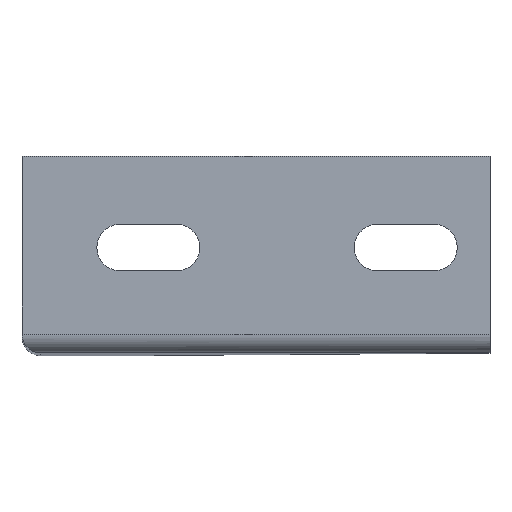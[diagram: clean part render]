
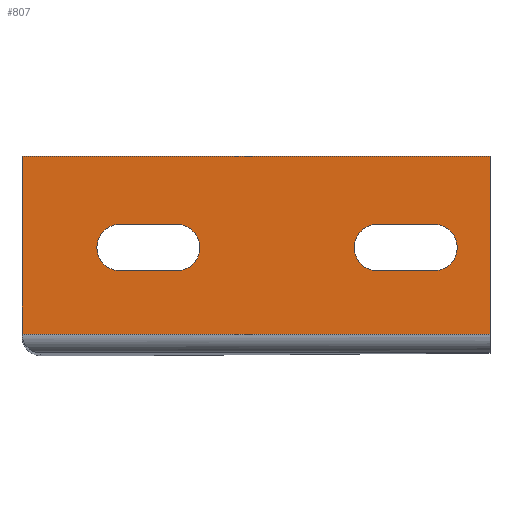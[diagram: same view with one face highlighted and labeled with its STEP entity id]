
A CAD part, top view. The second image highlights one B-rep face of the part: STEP entity #807.
In plain terms, the highlighted planar face has unit normal (0, 0, 1).
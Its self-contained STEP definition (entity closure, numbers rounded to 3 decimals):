
#17=DIRECTION('',(-1.,0.,0.));
#18=VECTOR('',#17,100.);
#19=CARTESIAN_POINT('',(100.,4.,0.));
#20=LINE('',#19,#18);
#191=DIRECTION('',(0.,1.,0.));
#192=VECTOR('',#191,38.);
#193=CARTESIAN_POINT('',(100.,4.,0.));
#194=LINE('',#193,#192);
#203=CARTESIAN_POINT('',(21.,22.5,0.));
#204=DIRECTION('',(0.,0.,-1.));
#205=DIRECTION('',(0.,-1.,0.));
#206=AXIS2_PLACEMENT_3D('',#203,#204,#205);
#208=DIRECTION('',(-1.,0.,0.));
#209=VECTOR('',#208,12.);
#210=CARTESIAN_POINT('',(33.,17.5,0.));
#211=LINE('',#210,#209);
#212=CARTESIAN_POINT('',(33.,22.5,0.));
#213=DIRECTION('',(0.,0.,-1.));
#214=DIRECTION('',(0.,1.,0.));
#215=AXIS2_PLACEMENT_3D('',#212,#213,#214);
#217=DIRECTION('',(1.,0.,0.));
#218=VECTOR('',#217,12.);
#219=CARTESIAN_POINT('',(21.,27.5,0.));
#220=LINE('',#219,#218);
#221=CARTESIAN_POINT('',(76.,22.5,0.));
#222=DIRECTION('',(0.,0.,-1.));
#223=DIRECTION('',(0.,-1.,0.));
#224=AXIS2_PLACEMENT_3D('',#221,#222,#223);
#226=DIRECTION('',(-1.,0.,0.));
#227=VECTOR('',#226,12.);
#228=CARTESIAN_POINT('',(88.,17.5,0.));
#229=LINE('',#228,#227);
#230=CARTESIAN_POINT('',(88.,22.5,0.));
#231=DIRECTION('',(0.,0.,-1.));
#232=DIRECTION('',(0.,1.,0.));
#233=AXIS2_PLACEMENT_3D('',#230,#231,#232);
#235=DIRECTION('',(1.,0.,0.));
#236=VECTOR('',#235,12.);
#237=CARTESIAN_POINT('',(76.,27.5,0.));
#238=LINE('',#237,#236);
#239=DIRECTION('',(0.,1.,0.));
#240=VECTOR('',#239,38.);
#241=CARTESIAN_POINT('',(0.,4.,0.));
#242=LINE('',#241,#240);
#350=DIRECTION('',(1.,0.,0.));
#351=VECTOR('',#350,100.);
#352=CARTESIAN_POINT('',(0.,42.,0.));
#353=LINE('',#352,#351);
#367=CARTESIAN_POINT('',(0.,42.,0.));
#369=VERTEX_POINT('',#367);
#370=CARTESIAN_POINT('',(100.,42.,0.));
#371=VERTEX_POINT('',#370);
#414=CARTESIAN_POINT('',(21.,17.5,0.));
#415=CARTESIAN_POINT('',(21.,27.5,0.));
#416=VERTEX_POINT('',#414);
#417=VERTEX_POINT('',#415);
#418=CARTESIAN_POINT('',(33.,27.5,0.));
#419=VERTEX_POINT('',#418);
#420=CARTESIAN_POINT('',(33.,17.5,0.));
#421=VERTEX_POINT('',#420);
#422=CARTESIAN_POINT('',(76.,17.5,0.));
#423=CARTESIAN_POINT('',(76.,27.5,0.));
#424=VERTEX_POINT('',#422);
#425=VERTEX_POINT('',#423);
#426=CARTESIAN_POINT('',(88.,27.5,0.));
#427=VERTEX_POINT('',#426);
#428=CARTESIAN_POINT('',(88.,17.5,0.));
#429=VERTEX_POINT('',#428);
#462=CARTESIAN_POINT('',(100.,4.,0.));
#463=CARTESIAN_POINT('',(0.,4.,0.));
#464=VERTEX_POINT('',#462);
#465=VERTEX_POINT('',#463);
#775=CARTESIAN_POINT('',(0.,0.,0.));
#776=DIRECTION('',(0.,0.,1.));
#777=DIRECTION('',(1.,0.,0.));
#778=AXIS2_PLACEMENT_3D('',#775,#776,#777);
#779=PLANE('',#778);
#780=ORIENTED_EDGE('',*,*,#496,.T.);
#781=ORIENTED_EDGE('',*,*,#527,.T.);
#783=ORIENTED_EDGE('',*,*,#782,.T.);
#784=ORIENTED_EDGE('',*,*,#761,.F.);
#785=EDGE_LOOP('',(#780,#781,#783,#784));
#786=FACE_OUTER_BOUND('',#785,.F.);
#788=ORIENTED_EDGE('',*,*,#787,.F.);
#790=ORIENTED_EDGE('',*,*,#789,.F.);
#792=ORIENTED_EDGE('',*,*,#791,.F.);
#794=ORIENTED_EDGE('',*,*,#793,.F.);
#795=EDGE_LOOP('',(#788,#790,#792,#794));
#796=FACE_BOUND('',#795,.F.);
#798=ORIENTED_EDGE('',*,*,#797,.F.);
#800=ORIENTED_EDGE('',*,*,#799,.F.);
#802=ORIENTED_EDGE('',*,*,#801,.F.);
#804=ORIENTED_EDGE('',*,*,#803,.F.);
#805=EDGE_LOOP('',(#798,#800,#802,#804));
#806=FACE_BOUND('',#805,.F.);
#807=ADVANCED_FACE('',(#786,#796,#806),#779,.T.);
#207=CIRCLE('',#206,5.);
#216=CIRCLE('',#215,5.);
#225=CIRCLE('',#224,5.);
#234=CIRCLE('',#233,5.);
#496=EDGE_CURVE('',#464,#465,#20,.T.);
#527=EDGE_CURVE('',#465,#369,#242,.T.);
#761=EDGE_CURVE('',#464,#371,#194,.T.);
#782=EDGE_CURVE('',#369,#371,#353,.T.);
#787=EDGE_CURVE('',#416,#417,#207,.T.);
#789=EDGE_CURVE('',#421,#416,#211,.T.);
#791=EDGE_CURVE('',#419,#421,#216,.T.);
#793=EDGE_CURVE('',#417,#419,#220,.T.);
#797=EDGE_CURVE('',#424,#425,#225,.T.);
#799=EDGE_CURVE('',#429,#424,#229,.T.);
#801=EDGE_CURVE('',#427,#429,#234,.T.);
#803=EDGE_CURVE('',#425,#427,#238,.T.);
